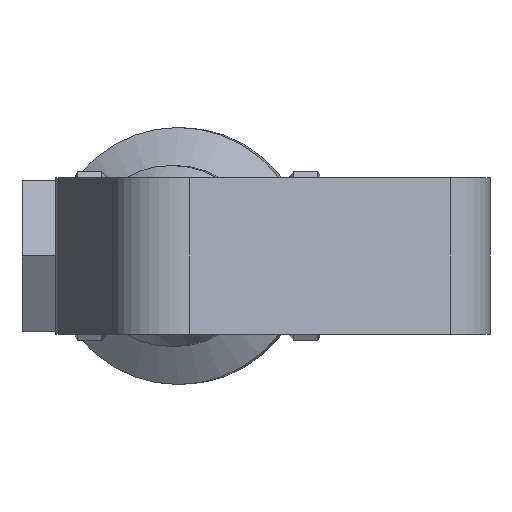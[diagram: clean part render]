
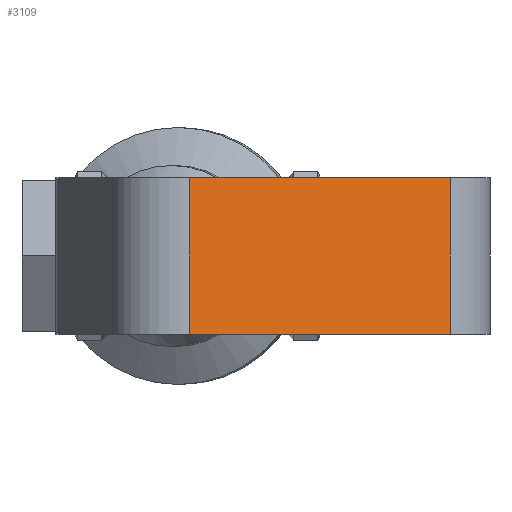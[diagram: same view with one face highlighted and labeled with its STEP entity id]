
A CAD part, front view. The second image highlights one B-rep face of the part: STEP entity #3109.
In plain terms, the highlighted planar face has unit normal (0.342, -0.94, 0).
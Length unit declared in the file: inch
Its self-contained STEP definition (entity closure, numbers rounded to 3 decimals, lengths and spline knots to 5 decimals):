
#110=PLANE('',#3438);
#245=FACE_OUTER_BOUND('',#427,.T.);
#427=EDGE_LOOP('',(#2167,#2168,#2169,#2170));
#619=LINE('',#5056,#865);
#626=LINE('',#5091,#872);
#627=LINE('',#5094,#873);
#628=LINE('',#5095,#874);
#865=VECTOR('',#3896,0.3937);
#872=VECTOR('',#3935,0.3937);
#873=VECTOR('',#3938,0.3937);
#874=VECTOR('',#3939,0.3937);
#1328=VERTEX_POINT('',#5053);
#1329=VERTEX_POINT('',#5055);
#1341=VERTEX_POINT('',#5089);
#1342=VERTEX_POINT('',#5093);
#1647=EDGE_CURVE('',#1328,#1329,#619,.T.);
#1664=EDGE_CURVE('',#1341,#1328,#626,.T.);
#1665=EDGE_CURVE('',#1342,#1341,#627,.T.);
#1666=EDGE_CURVE('',#1342,#1329,#628,.T.);
#2167=ORIENTED_EDGE('',*,*,#1664,.F.);
#2168=ORIENTED_EDGE('',*,*,#1665,.F.);
#2169=ORIENTED_EDGE('',*,*,#1666,.T.);
#2170=ORIENTED_EDGE('',*,*,#1647,.F.);
#3109=ADVANCED_FACE('',(#245),#110,.T.);
#3438=AXIS2_PLACEMENT_3D('',#5092,#3936,#3937);
#3896=DIRECTION('',(-0.94,-0.342,0.));
#3935=DIRECTION('',(0.,0.,-1.));
#3936=DIRECTION('center_axis',(0.342,-0.94,0.));
#3937=DIRECTION('ref_axis',(0.94,0.342,0.));
#3938=DIRECTION('',(0.94,0.342,0.));
#3939=DIRECTION('',(0.,0.,-1.));
#5053=CARTESIAN_POINT('',(2.09568,-4.43272,-0.65));
#5055=CARTESIAN_POINT('',(-0.06693,-5.21985,-0.65));
#5056=CARTESIAN_POINT('',(2.09568,-4.43272,-0.65));
#5089=CARTESIAN_POINT('',(2.09568,-4.43272,0.65));
#5091=CARTESIAN_POINT('',(2.09568,-4.43272,0.));
#5092=CARTESIAN_POINT('Origin',(-0.06693,-5.21985,0.));
#5093=CARTESIAN_POINT('',(-0.06693,-5.21985,0.65));
#5094=CARTESIAN_POINT('',(2.09568,-4.43272,0.65));
#5095=CARTESIAN_POINT('',(-0.06693,-5.21985,0.));
